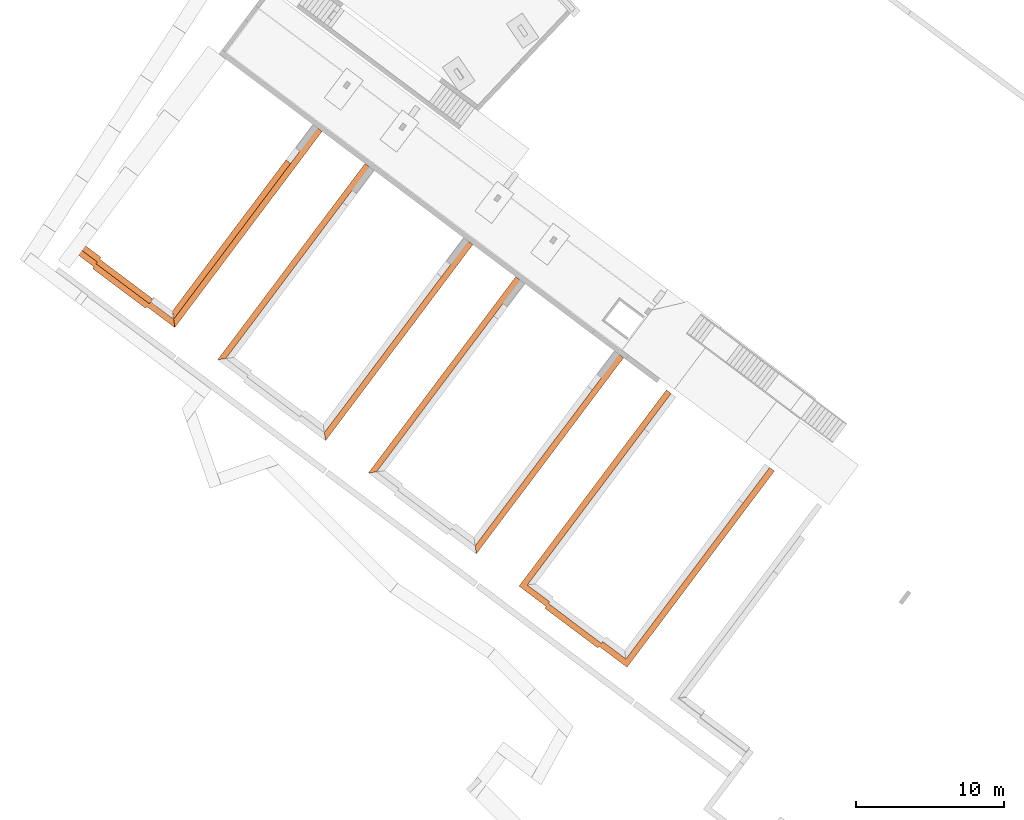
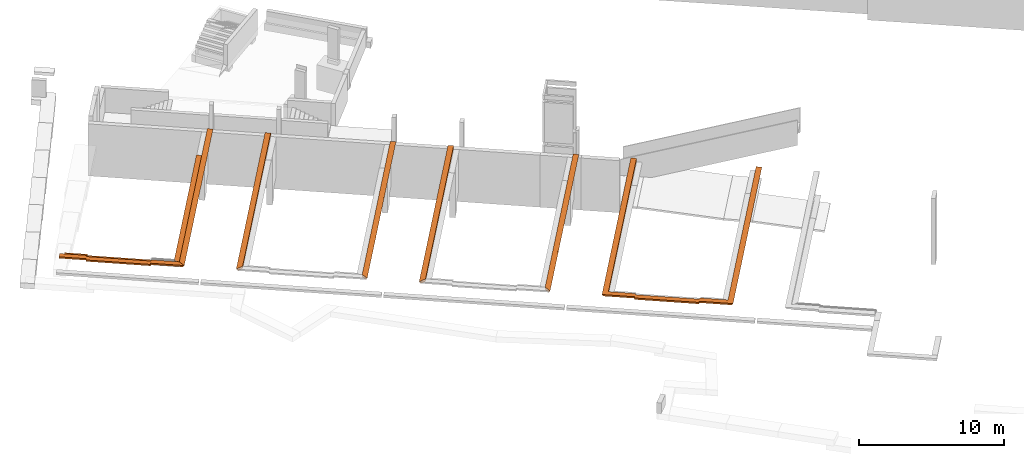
# One storey, part 10 of 11: 6 proxies.
"""IFC2X3 building model written with IfcOpenShell, lengths in metres."""

from ifc_helpers import new_model, entity, si_unit, converted_unit, derived_unit, direction, frame, origin, place, context, subcontext, project, spatial, faceted_brep, type_object, element, save


model = new_model("IFC2X3")

# Units and contexts
model_context = context("Model", 3, precision=1e-05, world=origin(), true_north=direction((6.123031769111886e-17, 1.0)))
body_context = subcontext(model_context, "Body", "Model", "MODEL_VIEW")
ifc_project = project(units=[si_unit("LENGTHUNIT", "METRE"), si_unit("AREAUNIT", "SQUARE_METRE"), si_unit("VOLUMEUNIT", "CUBIC_METRE"), converted_unit("PLANEANGLEUNIT", "DEGREE", entity("IfcRatioMeasure", 0.017453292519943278), si_unit("PLANEANGLEUNIT", "RADIAN"), dimensions=[0, 0, 0, 0, 0, 0, 0]), si_unit("MASSUNIT", "GRAM", prefix="KILO"), derived_unit("MASSDENSITYUNIT", [(si_unit("MASSUNIT", "GRAM", prefix="KILO"), 1), (si_unit("LENGTHUNIT", "METRE"), -3)]), derived_unit("IONCONCENTRATIONUNIT", [(si_unit("MASSUNIT", "GRAM", prefix="KILO"), 1), (si_unit("LENGTHUNIT", "METRE"), -3)]), derived_unit("MOMENTOFINERTIAUNIT", [(si_unit("LENGTHUNIT", "METRE"), 4)]), si_unit("TIMEUNIT", "SECOND"), si_unit("FREQUENCYUNIT", "HERTZ"), si_unit("THERMODYNAMICTEMPERATUREUNIT", "DEGREE_CELSIUS"), derived_unit("THERMALTRANSMITTANCEUNIT", [(si_unit("MASSUNIT", "GRAM", prefix="KILO"), 1), (si_unit("THERMODYNAMICTEMPERATUREUNIT", "KELVIN"), -1), (si_unit("TIMEUNIT", "SECOND"), -3)]), derived_unit("THERMALCONDUCTANCEUNIT", [(si_unit("MASSUNIT", "GRAM", prefix="KILO"), 1), (si_unit("THERMODYNAMICTEMPERATUREUNIT", "KELVIN"), -1), (si_unit("TIMEUNIT", "SECOND"), -3), (si_unit("LENGTHUNIT", "METRE"), 1)]), derived_unit("VOLUMETRICFLOWRATEUNIT", [(si_unit("LENGTHUNIT", "METRE"), 3), (si_unit("TIMEUNIT", "SECOND"), -1)]), derived_unit("MASSFLOWRATEUNIT", [(si_unit("MASSUNIT", "GRAM", prefix="KILO"), 1), (si_unit("TIMEUNIT", "SECOND"), -1)]), derived_unit("ROTATIONALFREQUENCYUNIT", [(si_unit("TIMEUNIT", "SECOND"), -1)]), si_unit("ELECTRICCURRENTUNIT", "AMPERE"), si_unit("ELECTRICVOLTAGEUNIT", "VOLT"), si_unit("POWERUNIT", "WATT"), si_unit("FORCEUNIT", "NEWTON", prefix="KILO"), si_unit("ILLUMINANCEUNIT", "LUX"), si_unit("LUMINOUSFLUXUNIT", "LUMEN"), si_unit("LUMINOUSINTENSITYUNIT", "CANDELA"), derived_unit("USERDEFINED", [(si_unit("MASSUNIT", "GRAM", prefix="KILO"), -1), (si_unit("LENGTHUNIT", "METRE"), -2), (si_unit("TIMEUNIT", "SECOND"), 3), (si_unit("LUMINOUSFLUXUNIT", "LUMEN"), 1)]), derived_unit("USERDEFINED", [(si_unit("MASSUNIT", "GRAM", prefix="KILO"), 1), (si_unit("TIMEUNIT", "SECOND"), -3), (si_unit("LENGTHUNIT", "METRE"), 3), (si_unit("ELECTRICCURRENTUNIT", "AMPERE"), -2)]), derived_unit("SOUNDPOWERUNIT", [(si_unit("MASSUNIT", "GRAM", prefix="KILO"), 1), (si_unit("TIMEUNIT", "SECOND"), -3), (si_unit("LENGTHUNIT", "METRE"), 2)]), derived_unit("SOUNDPRESSUREUNIT", [(si_unit("MASSUNIT", "GRAM", prefix="KILO"), 1), (si_unit("LENGTHUNIT", "METRE"), -1), (si_unit("TIMEUNIT", "SECOND"), -2)]), derived_unit("LINEARVELOCITYUNIT", [(si_unit("LENGTHUNIT", "METRE"), 1), (si_unit("TIMEUNIT", "SECOND"), -1)]), si_unit("PRESSUREUNIT", "PASCAL"), derived_unit("USERDEFINED", [(si_unit("MASSUNIT", "GRAM", prefix="KILO"), 1), (si_unit("LENGTHUNIT", "METRE"), -2), (si_unit("TIMEUNIT", "SECOND"), -2)]), derived_unit("LINEARFORCEUNIT", [(si_unit("MASSUNIT", "GRAM", prefix="KILO"), 1), (si_unit("TIMEUNIT", "SECOND"), -2)]), derived_unit("PLANARFORCEUNIT", [(si_unit("MASSUNIT", "GRAM", prefix="KILO"), 1), (si_unit("LENGTHUNIT", "METRE"), -1), (si_unit("TIMEUNIT", "SECOND"), -2)]), derived_unit("SPECIFICHEATCAPACITYUNIT", [(si_unit("THERMODYNAMICTEMPERATUREUNIT", "KELVIN"), -1), (si_unit("LENGTHUNIT", "METRE"), 2), (si_unit("TIMEUNIT", "SECOND"), -2)]), derived_unit("HEATINGVALUEUNIT", [(si_unit("LENGTHUNIT", "METRE"), 2), (si_unit("TIMEUNIT", "SECOND"), -2)]), derived_unit("VAPORPERMEABILITYUNIT", [(si_unit("LENGTHUNIT", "METRE"), -1), (si_unit("TIMEUNIT", "SECOND"), 1)]), derived_unit("DYNAMICVISCOSITYUNIT", [(si_unit("MASSUNIT", "GRAM", prefix="KILO"), 1), (si_unit("TIMEUNIT", "SECOND"), -1), (si_unit("LENGTHUNIT", "METRE"), -1)]), derived_unit("THERMALEXPANSIONCOEFFICIENTUNIT", [(si_unit("THERMODYNAMICTEMPERATUREUNIT", "KELVIN"), -1)]), derived_unit("MODULUSOFELASTICITYUNIT", [(si_unit("MASSUNIT", "GRAM", prefix="KILO"), 1), (si_unit("LENGTHUNIT", "METRE"), -1), (si_unit("TIMEUNIT", "SECOND"), -2)]), derived_unit("ISOTHERMALMOISTURECAPACITYUNIT", [(si_unit("LENGTHUNIT", "METRE"), 3), (si_unit("MASSUNIT", "GRAM", prefix="KILO"), -1)]), derived_unit("MOISTUREDIFFUSIVITYUNIT", [(si_unit("TIMEUNIT", "SECOND"), -1), (si_unit("LENGTHUNIT", "METRE"), 2)])], contexts=[model_context])

# Site, building, storey
site_placement = place(None, origin())
site = spatial("IfcSite", under=ifc_project, at=site_placement, Name="Default", CompositionType="ELEMENT")
building_placement = place(site_placement, frame((0.0, 0.0, 235.0), z_axis=(0.0, 0.0, 1.0), x_axis=(-0.7996477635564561, 0.6004693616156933, 0.0)))
building = spatial("IfcBuilding", under=site, at=building_placement, CompositionType="ELEMENT")
storey_placement = place(building_placement, frame((0.0, 0.0, -4.459999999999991)))
storey = spatial("IfcBuildingStorey", under=building, at=storey_placement, Name="PS1- Vestuari", CompositionType="ELEMENT", Elevation=-4.459999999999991)

# Proxies
building_element_proxy_type = type_object("IfcBuildingElementProxyType", Name="Borde de losa:STR- Formigó- Vora solera 15 cm- 35x30 cm", PredefinedType="NOTDEFINED")
proxy_1_placement = place(storey_placement, frame((66.44514768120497, -33.415191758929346, 3.859999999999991)))
element("IfcBuildingElementProxy", 1, at=proxy_1_placement, inside=storey, type_object=building_element_proxy_type, Name="Borde de losa:STR- Formigó- Vora solera 15 cm- 35x30 cm", ObjectType="Borde de losa:STR- Formigó- Vora solera 15 cm- 35x30 cm", context=body_context, shape_type="Brep", body=[
    faceted_brep([(0.0, 13.129999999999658, 0.0), (0.0, 13.129999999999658, 0.2), (0.3999999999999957, 12.729999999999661, 0.2000000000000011), (0.3000000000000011, 12.829999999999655, 0.0), (0.0, 0.0, 0.0), (0.3000000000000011, 0.0, 0.0), (0.3999999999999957, 0.0, 0.2000000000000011), (0.0, 0.0, 0.2)], [[[0, 1, 2, 3]], [[4, 5, 6, 7]], [[1, 0, 4, 7]], [[2, 1, 7, 6]], [[3, 2, 6, 5]], [[0, 3, 5, 4]]]),
    faceted_brep([(6.420000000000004, 13.274999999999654, 0.0), (6.420000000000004, 13.274999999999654, 0.2), (6.420000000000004, 13.129999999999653, 0.20000000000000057), (6.420000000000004, 12.874999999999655, 0.2000000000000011), (6.420000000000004, 12.974999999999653, 0.0), (1.9549999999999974, 13.274999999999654, 0.0), (1.9549999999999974, 13.129999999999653, 0.0), (1.9549999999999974, 12.974999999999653, 0.0), (1.9549999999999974, 12.874999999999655, 0.2000000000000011), (1.9549999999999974, 13.129999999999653, 0.20000000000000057), (1.9549999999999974, 13.274999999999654, 0.2)], [[[0, 1, 2, 3, 4]], [[5, 6, 7, 8, 9, 10]], [[1, 0, 5, 10]], [[3, 2, 1, 10, 9, 8]], [[4, 3, 8, 7]], [[0, 4, 7, 6, 5]]]),
    faceted_brep([(8.0, 13.129999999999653, 0.0), (8.0, 13.129999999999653, 0.2), (8.0, 12.729999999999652, 0.2000000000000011), (8.0, 12.829999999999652, 0.0), (6.420000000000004, 13.129999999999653, 0.0), (6.420000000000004, 12.829999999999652, 0.0), (6.420000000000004, 12.729999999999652, 0.2000000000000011), (6.420000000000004, 13.129999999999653, 0.2)], [[[0, 1, 2, 3]], [[4, 5, 6, 7]], [[1, 0, 4, 7]], [[2, 1, 7, 6]], [[3, 2, 6, 5]], [[0, 3, 5, 4]]]),
])
proxy_2_placement = place(storey_placement, frame((66.05130152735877, -20.285191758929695, 4.039999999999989)))
element("IfcBuildingElementProxy", 2, at=proxy_2_placement, inside=storey, type_object=building_element_proxy_type, Name="Borde de losa:STR- Formigó- Vora solera 15 cm- 35x30 cm", ObjectType="Borde de losa:STR- Formigó- Vora solera 15 cm- 35x30 cm", context=body_context, shape_type="Brep", body=[
    faceted_brep([(0.3938461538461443, 0.0, 0.0), (0.3938461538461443, 0.0, 0.2), (0.0, 0.3938461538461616, 0.18769230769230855), (0.09384615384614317, 0.30000000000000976, 0.0), (2.3488461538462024, 0.0, 0.20000000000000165), (2.3488461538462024, 0.0, 0.0), (2.3488461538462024, 0.30000000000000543, 0.0), (2.3488461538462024, 0.39700000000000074, 0.19400000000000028), (2.3488461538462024, 0.145000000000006, 0.20000000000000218), (0.3938461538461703, 0.14500000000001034, 0.2000000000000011), (0.2018461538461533, 0.3970000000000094, 0.19400000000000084)], [[[0, 1, 2, 3]], [[4, 5, 6, 7, 8]], [[1, 0, 5, 4]], [[1, 4, 8, 9]], [[6, 3, 2, 10, 7]], [[0, 3, 6, 5]], [[9, 10, 2, 1]], [[10, 9, 8, 7]]]),
    faceted_brep([(2.3488461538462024, 0.145000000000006, 0.0), (2.3488461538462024, 0.14500000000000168, 0.20000000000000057), (2.3488461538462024, 0.5402941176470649, 0.19058823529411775), (2.3488461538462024, 0.4450000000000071, 0.0), (6.813846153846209, 0.14499999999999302, 0.2000000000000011), (6.813846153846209, 0.14499999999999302, 0.0), (6.813846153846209, 0.4449999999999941, 0.0), (6.813846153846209, 0.5402941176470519, 0.19058823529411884)], [[[0, 1, 2, 3]], [[4, 5, 6, 7]], [[1, 0, 5, 4]], [[6, 3, 2, 7]], [[0, 3, 6, 5]], [[2, 1, 4, 7]]]),
    faceted_brep([(6.813846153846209, 0.0, 0.0), (6.813846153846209, 0.0, 0.20000000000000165), (6.813846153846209, 0.1449999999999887, 0.2000000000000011), (6.813846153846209, 0.39700000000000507, 0.19400000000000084), (6.813846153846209, 0.30000000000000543, 0.0), (8.693846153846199, 0.0, 0.20000000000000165), (8.693846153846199, 0.0, 0.0), (8.693846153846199, 0.3000000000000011, 0.0), (8.693846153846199, 0.39699999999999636, 0.19400000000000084), (8.693846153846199, 0.14499999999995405, 0.20000000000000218)], [[[0, 1, 2, 3, 4]], [[5, 6, 7, 8, 9]], [[1, 0, 6, 5]], [[1, 5, 9, 2]], [[7, 4, 3, 8]], [[0, 4, 7, 6]], [[3, 2, 9, 8]]]),
])
proxy_3_placement = place(storey_placement, frame((40.64355240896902, -36.415191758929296, 4.03999999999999)))
element("IfcBuildingElementProxy", 3, at=proxy_3_placement, inside=storey, type_object=building_element_proxy_type, Name="Borde de losa:STR- Formigó- Vora solera 15 cm- 35x30 cm", ObjectType="Borde de losa:STR- Formigó- Vora solera 15 cm- 35x30 cm", context=body_context, shape_type="Brep", body=[
    faceted_brep([(0.046026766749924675, 6.5752955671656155, 0.2000000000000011), (0.05750166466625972, 6.62201978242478, 0.2000000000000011), (0.06135970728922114, 6.66997748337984, 0.2000000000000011), (0.05750166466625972, 6.717935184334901, 0.2000000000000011), (0.046026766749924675, 6.7646593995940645, 0.2000000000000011), (0.027230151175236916, 6.808948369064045, 0.2000000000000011), (0.001595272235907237, 6.849662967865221, 0.2000000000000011), (0.001595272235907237, 6.49029199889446, 0.2000000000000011), (0.027230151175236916, 6.531006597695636, 0.2000000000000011), (0.04602975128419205, 11.575292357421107, 0.2000000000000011), (0.057505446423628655, 11.62201811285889, 0.2000000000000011), (0.06136375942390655, 11.66997748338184, 0.2000000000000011), (0.057505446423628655, 11.717936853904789, 0.2000000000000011), (0.04602975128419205, 11.764662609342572, 0.2000000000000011), (0.027231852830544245, 11.80895286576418, 0.2000000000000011), (0.001595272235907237, 11.849668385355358, 0.2000000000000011), (0.001595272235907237, 11.490286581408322, 0.2000000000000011), (0.027231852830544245, 11.5310021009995, 0.2000000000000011), (0.04602378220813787, 1.57529877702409, 0.2000000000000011), (0.057497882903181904, 1.6220214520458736, 0.2000000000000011), (0.061355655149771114, 1.669977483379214, 0.2000000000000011), (0.057497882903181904, 1.7179335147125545, 0.2000000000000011), (0.04602378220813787, 1.764656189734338, 0.2000000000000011), (0.02722844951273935, 1.8089438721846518, 0.2000000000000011), (0.001595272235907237, 1.849657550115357, 0.2000000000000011), (0.001595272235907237, 1.490297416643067, 0.2000000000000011), (0.02722844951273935, 1.5310110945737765, 0.2000000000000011), (0.4015952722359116, 0.0, 0.2), (0.007749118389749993, 0.0, 0.18769230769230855), (0.10159527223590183, 0.0, 0.0), (0.4015952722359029, 0.0, 0.0), (0.4015952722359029, 16.129999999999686, 0.2), (0.4015952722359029, 16.129999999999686, 0.0), (0.10159527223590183, 16.42999999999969, 0.0), (0.007749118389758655, 16.523846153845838, 0.18769230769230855), (0.004709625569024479, 1.4945384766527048, 0.19377129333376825), (0.004709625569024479, 1.8454164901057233, 0.19377129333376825), (0.007749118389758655, 1.8411214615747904, 0.18769230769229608), (0.007749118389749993, 6.498827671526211, 0.18769230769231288), (0.004709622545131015, 6.494532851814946, 0.1937712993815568), (0.004709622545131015, 6.845422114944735, 0.1937712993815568), (0.007749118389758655, 6.84112729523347, 0.18769230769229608), (0.007749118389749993, 11.498821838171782, 0.18769230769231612), (0.004709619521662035, 11.494527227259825, 0.19377130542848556), (0.004709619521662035, 11.845427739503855, 0.19377130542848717), (0.007749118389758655, 11.841133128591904, 0.18769230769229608), (0.007749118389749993, 1.498833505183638, 0.18769230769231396), (0.030797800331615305, 11.801906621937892, 0.18841257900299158), (0.04764326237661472, 11.759666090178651, 0.18893899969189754), (0.057907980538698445, 11.715381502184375, 0.18925977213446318), (0.06136375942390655, 11.66997748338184, 0.1893677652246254), (0.057907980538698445, 11.624573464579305, 0.18925977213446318), (0.04764326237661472, 11.580288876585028, 0.18893899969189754), (0.030797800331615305, 11.538048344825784, 0.18841257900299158), (0.030796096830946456, 6.801901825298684, 0.18841252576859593), (0.04764027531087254, 6.759662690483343, 0.18893890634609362), (0.05790419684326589, 6.715379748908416, 0.18925965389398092), (0.06135970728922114, 6.66997748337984, 0.18936763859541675), (0.05790419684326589, 6.624575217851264, 0.18925965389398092), (0.047640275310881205, 6.580292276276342, 0.18893890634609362), (0.030796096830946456, 6.538053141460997, 0.18841252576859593), (0.03079439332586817, 1.8018970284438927, 0.18841247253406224), (0.04763728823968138, 1.7596592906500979, 0.18893881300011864), (0.057900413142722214, 1.7153779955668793, 0.18925953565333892), (0.061355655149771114, 1.669977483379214, 0.18936751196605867), (0.057900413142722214, 1.624576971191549, 0.18925953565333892), (0.04763728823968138, 1.5802956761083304, 0.18893881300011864), (0.03079439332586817, 1.5380579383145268, 0.18841247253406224)], [[[0, 1, 2, 3, 4, 5, 6, 7, 8]], [[9, 10, 11, 12, 13, 14, 15, 16, 17]], [[18, 19, 20, 21, 22, 23, 24, 25, 26]], [[27, 28, 29, 30]], [[31, 32, 33, 34]], [[27, 30, 32, 31]], [[35, 25, 24, 36, 37, 38, 39, 7, 6, 40, 41, 42, 43, 16, 15, 44, 45, 34, 33, 29, 28, 46]], [[30, 29, 33, 32]], [[27, 31, 34, 45, 47, 48, 49, 50, 51, 52, 53, 42, 41, 54, 55, 56, 57, 58, 59, 60, 38, 37, 61, 62, 63, 64, 65, 66, 67, 46, 28]], [[46, 67, 35]], [[25, 35, 26]], [[26, 35, 67]], [[67, 18, 26]], [[65, 64, 20]], [[66, 65, 19]], [[19, 18, 66]], [[20, 19, 65]], [[66, 18, 67]], [[63, 62, 21]], [[64, 63, 20]], [[20, 63, 21]], [[62, 22, 21]], [[61, 37, 36]], [[61, 36, 23]], [[23, 22, 61]], [[24, 23, 36]], [[61, 22, 62]], [[38, 60, 39]], [[7, 39, 8]], [[8, 39, 60]], [[60, 0, 8]], [[58, 57, 2]], [[59, 58, 1]], [[1, 0, 59]], [[2, 1, 58]], [[59, 0, 60]], [[56, 55, 3]], [[57, 56, 2]], [[2, 56, 3]], [[55, 4, 3]], [[54, 41, 40]], [[54, 40, 5]], [[5, 4, 54]], [[6, 5, 40]], [[54, 4, 55]], [[42, 53, 43]], [[16, 43, 17]], [[17, 43, 53]], [[53, 9, 17]], [[51, 50, 11]], [[52, 51, 10]], [[10, 9, 52]], [[11, 10, 51]], [[52, 9, 53]], [[49, 48, 12]], [[50, 49, 11]], [[11, 49, 12]], [[48, 13, 12]], [[47, 45, 44]], [[47, 44, 14]], [[14, 13, 47]], [[15, 14, 44]], [[47, 13, 48]]]),
    faceted_brep([(8.701595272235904, 16.129999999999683, 0.0), (8.701595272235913, 16.129999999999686, 0.20000000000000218), (9.097856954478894, 16.526261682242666, 0.19252336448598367), (9.001595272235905, 16.429999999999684, 0.0), (8.701595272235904, 0.0, 0.20000000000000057), (8.701595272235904, 0.0, 0.0), (9.001595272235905, 0.0, 0.0), (9.097856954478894, 0.0, 0.1925233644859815)], [[[0, 1, 2, 3]], [[4, 5, 6, 7]], [[1, 0, 5, 4]], [[6, 3, 2, 7]], [[0, 3, 6, 5]], [[2, 1, 4, 7]]]),
])
proxy_4_placement = place(storey_placement, frame((53.343552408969, -36.415191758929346, 4.03999999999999)))
element("IfcBuildingElementProxy", 4, at=proxy_4_placement, inside=storey, type_object=building_element_proxy_type, Name="Borde de losa:STR- Formigó- Vora solera 15 cm- 35x30 cm", ObjectType="Borde de losa:STR- Formigó- Vora solera 15 cm- 35x30 cm", context=body_context, shape_type="Brep", body=[
    faceted_brep([(0.0015952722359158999, 11.490276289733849, 0.2000000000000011), (0.02723185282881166, 11.530991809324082, 0.2000000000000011), (0.04602975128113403, 11.575282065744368, 0.2000000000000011), (0.05750544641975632, 11.622007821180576, 0.2000000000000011), (0.061363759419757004, 11.66996719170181, 0.2000000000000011), (0.05750544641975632, 11.717926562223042, 0.2000000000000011), (0.04602975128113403, 11.76465231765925, 0.2000000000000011), (0.02723185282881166, 11.808942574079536, 0.2000000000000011), (0.0015952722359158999, 11.84965809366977, 0.2000000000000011), (0.0015952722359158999, 6.4902817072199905, 0.2000000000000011), (0.02723015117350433, 6.5309963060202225, 0.2000000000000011), (0.046026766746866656, 6.5752852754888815, 0.2000000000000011), (0.05750166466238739, 6.622009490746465, 0.2000000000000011), (0.06135970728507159, 6.66996719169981, 0.2000000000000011), (0.05750166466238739, 6.717924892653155, 0.2000000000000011), (0.046026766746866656, 6.7646491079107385, 0.2000000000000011), (0.02723015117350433, 6.8089380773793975, 0.2000000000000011), (0.0015952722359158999, 6.8496526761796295, 0.2000000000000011), (0.046023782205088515, 1.5752884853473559, 0.2000000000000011), (0.05749788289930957, 1.622011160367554, 0.2000000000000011), (0.061355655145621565, 1.6699671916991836, 0.2000000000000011), (0.05749788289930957, 1.7179232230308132, 0.2000000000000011), (0.046023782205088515, 1.7646458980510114, 0.2000000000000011), (0.027228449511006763, 1.8089335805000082, 0.2000000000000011), (0.0015952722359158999, 1.8496472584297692, 0.2000000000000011), (0.0015952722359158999, 1.490287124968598, 0.2000000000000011), (0.027228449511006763, 1.531000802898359, 0.2000000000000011), (0.4015952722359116, 0.0, 0.2), (0.007749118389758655, 0.0, 0.18769230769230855), (0.1015952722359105, 0.0, 0.0), (0.4015952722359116, 0.0, 0.0), (0.4015952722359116, 16.129999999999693, 0.2), (0.4015952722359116, 16.129999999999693, 0.0), (0.1015952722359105, 16.429999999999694, 0.0), (0.007749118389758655, 16.52384615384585, 0.18769230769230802), (0.004709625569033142, 1.494528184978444, 0.19377129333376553), (0.004709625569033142, 1.8454061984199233, 0.19377129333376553), (0.007749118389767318, 1.841111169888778, 0.1876923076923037), (0.007749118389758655, 6.4988173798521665, 0.18769230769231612), (0.004709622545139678, 6.494522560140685, 0.193771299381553), (0.004709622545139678, 6.845411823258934, 0.193771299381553), (0.007749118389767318, 6.841117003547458, 0.1876923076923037), (0.007749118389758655, 11.49881154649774, 0.18769230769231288), (0.00470961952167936, 11.494516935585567, 0.19377130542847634), (0.00470961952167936, 11.845417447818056, 0.19377130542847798), (0.007749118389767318, 11.841122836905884, 0.1876923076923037), (0.007749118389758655, 1.4988232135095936, 0.1876923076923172), (0.030797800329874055, 11.801896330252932, 0.1884125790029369), (0.04764326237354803, 11.75965579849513, 0.1889389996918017), (0.05790798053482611, 11.715371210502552, 0.18925977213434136), (0.061363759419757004, 11.66996719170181, 0.18936776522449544), (0.05790798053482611, 11.624563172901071, 0.18925977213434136), (0.04764326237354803, 11.580278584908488, 0.1889389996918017), (0.030797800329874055, 11.538038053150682, 0.1884125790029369), (0.030796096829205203, 6.801891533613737, 0.1884125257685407), (0.04764027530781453, 6.759652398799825, 0.18893890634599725), (0.05790419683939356, 6.715369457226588, 0.18925965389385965), (0.06135970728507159, 6.66996719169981, 0.1893676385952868), (0.05790419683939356, 6.624564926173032, 0.18925965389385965), (0.04764027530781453, 6.580281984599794, 0.1889389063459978), (0.030796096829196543, 6.538042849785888, 0.1884125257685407), (0.03079439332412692, 1.801886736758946, 0.188412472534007), (0.04763728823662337, 1.7596489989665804, 0.1889388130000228), (0.05790041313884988, 1.7153677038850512, 0.1892595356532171), (0.061355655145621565, 1.6699671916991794, 0.18936751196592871), (0.057900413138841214, 1.6245666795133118, 0.1892595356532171), (0.04763728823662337, 1.5802853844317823, 0.1889388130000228), (0.03079439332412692, 1.5380476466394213, 0.18841247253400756)], [[[0, 1, 2, 3, 4, 5, 6, 7, 8]], [[9, 10, 11, 12, 13, 14, 15, 16, 17]], [[18, 19, 20, 21, 22, 23, 24, 25, 26]], [[27, 28, 29, 30]], [[31, 32, 33, 34]], [[27, 30, 32, 31]], [[35, 25, 24, 36, 37, 38, 39, 9, 17, 40, 41, 42, 43, 0, 8, 44, 45, 34, 33, 29, 28, 46]], [[30, 29, 33, 32]], [[27, 31, 34, 45, 47, 48, 49, 50, 51, 52, 53, 42, 41, 54, 55, 56, 57, 58, 59, 60, 38, 37, 61, 62, 63, 64, 65, 66, 67, 46, 28]], [[42, 53, 43]], [[0, 43, 1]], [[1, 43, 53]], [[53, 2, 1]], [[51, 50, 4]], [[52, 51, 3]], [[3, 2, 52]], [[4, 3, 51]], [[52, 2, 53]], [[49, 48, 5]], [[50, 49, 4]], [[4, 49, 5]], [[48, 6, 5]], [[47, 45, 44]], [[47, 44, 7]], [[7, 6, 47]], [[8, 7, 44]], [[47, 6, 48]], [[38, 60, 39]], [[9, 39, 10]], [[10, 39, 60]], [[60, 11, 10]], [[58, 57, 13]], [[59, 58, 12]], [[12, 11, 59]], [[13, 12, 58]], [[59, 11, 60]], [[56, 55, 14]], [[57, 56, 13]], [[13, 56, 14]], [[55, 15, 14]], [[54, 41, 40]], [[54, 40, 16]], [[16, 15, 54]], [[17, 16, 40]], [[54, 15, 55]], [[46, 67, 35]], [[25, 35, 26]], [[26, 35, 67]], [[67, 18, 26]], [[65, 64, 20]], [[66, 65, 19]], [[19, 18, 66]], [[20, 19, 65]], [[66, 18, 67]], [[63, 62, 21]], [[64, 63, 20]], [[20, 63, 21]], [[62, 22, 21]], [[61, 37, 36]], [[61, 36, 23]], [[23, 22, 61]], [[24, 23, 36]], [[61, 22, 62]]]),
    faceted_brep([(8.701595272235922, 16.129999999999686, 0.0), (8.701595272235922, 16.12999999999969, 0.20000000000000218), (9.09785695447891, 16.52626168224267, 0.19252336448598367), (9.001595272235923, 16.429999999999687, 0.0), (8.701595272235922, 0.0, 0.20000000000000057), (8.701595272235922, 0.0, 0.0), (9.001595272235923, 0.0, 0.0), (9.09785695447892, 0.0, 0.1925233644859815)], [[[0, 1, 2, 3]], [[4, 5, 6, 7]], [[1, 0, 5, 4]], [[6, 3, 2, 7]], [[0, 3, 6, 5]], [[2, 1, 4, 7]]]),
])
proxy_5_placement = place(storey_placement, frame((66.043552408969, -36.415191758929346, 4.039999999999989)))
element("IfcBuildingElementProxy", 5, at=proxy_5_placement, inside=storey, type_object=building_element_proxy_type, Name="Borde de losa:STR- Formigó- Vora solera 15 cm- 35x30 cm", ObjectType="Borde de losa:STR- Formigó- Vora solera 15 cm- 35x30 cm", context=body_context, shape_type="Brep", body=[
    faceted_brep([(0.0015952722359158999, 6.490271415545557, 0.20000000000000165), (0.027230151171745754, 6.53098601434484, 0.20000000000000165), (0.04602676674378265, 6.575274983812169, 0.20000000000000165), (0.0575016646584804, 6.621999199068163, 0.20000000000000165), (0.061359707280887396, 6.669956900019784, 0.20000000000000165), (0.0575016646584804, 6.717914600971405, 0.20000000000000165), (0.04602676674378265, 6.764638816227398, 0.20000000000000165), (0.027230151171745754, 6.808927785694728, 0.20000000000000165), (0.0015952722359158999, 6.849642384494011, 0.20000000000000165), (0.0015952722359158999, 11.490265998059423, 0.20000000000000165), (0.027231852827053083, 11.530981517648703, 0.20000000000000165), (0.04602975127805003, 11.575271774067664, 0.20000000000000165), (0.05750544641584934, 11.621997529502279, 0.2000000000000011), (0.06136375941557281, 11.669956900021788, 0.2000000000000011), (0.05750544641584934, 11.717916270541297, 0.2000000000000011), (0.04602975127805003, 11.76464202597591, 0.20000000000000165), (0.027231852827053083, 11.808932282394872, 0.20000000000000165), (0.0015952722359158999, 11.849647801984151, 0.20000000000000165), (0.0015952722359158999, 1.4902768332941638, 0.20000000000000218), (0.027228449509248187, 1.5309905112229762, 0.20000000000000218), (0.04602378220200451, 1.5752781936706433, 0.20000000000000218), (0.05749788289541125, 1.622000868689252, 0.20000000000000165), (0.06135565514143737, 1.6699569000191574, 0.20000000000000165), (0.05749788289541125, 1.717912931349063, 0.20000000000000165), (0.04602378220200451, 1.7646356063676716, 0.20000000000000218), (0.027228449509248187, 1.8089232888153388, 0.20000000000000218), (0.0015952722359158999, 1.8496369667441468, 0.20000000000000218), (0.4015952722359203, 0.0, 0.20000000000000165), (0.007749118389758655, 0.0, 0.1876923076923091), (0.1015952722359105, 0.0, 0.0), (0.4015952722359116, 0.0, 0.0), (0.4015952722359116, 16.129999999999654, 0.2), (0.4015952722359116, 16.129999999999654, 0.0), (0.1015952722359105, 16.429999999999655, 0.0), (0.007749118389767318, 16.523846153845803, 0.18769230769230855), (0.004709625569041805, 1.4945178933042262, 0.19377129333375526), (0.004709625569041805, 1.8453959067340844, 0.19377129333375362), (0.007749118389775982, 1.8411008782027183, 0.18769230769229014), (0.007749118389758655, 6.498807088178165, 0.18769230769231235), (0.004709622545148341, 6.494512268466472, 0.1937712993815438), (0.004709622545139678, 6.8454015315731, 0.1937712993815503), (0.007749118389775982, 6.841106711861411, 0.18769230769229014), (0.007749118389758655, 11.498801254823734, 0.18769230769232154), (0.00470961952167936, 11.49450664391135, 0.1937713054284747), (0.00470961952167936, 11.84540715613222, 0.19377130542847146), (0.007749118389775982, 11.841112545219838, 0.1876923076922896), (0.007749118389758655, 1.4988129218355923, 0.18769230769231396), (0.03079780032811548, 11.801886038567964, 0.1884125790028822), (0.047643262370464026, 11.7596455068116, 0.18893899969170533), (0.057907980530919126, 11.715360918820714, 0.18925977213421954), (0.06136375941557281, 11.669956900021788, 0.18936776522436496), (0.057907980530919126, 11.624552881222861, 0.18925977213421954), (0.047643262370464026, 11.580268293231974, 0.18893899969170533), (0.03079780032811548, 11.538027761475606, 0.1884125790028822), (0.030796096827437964, 6.8018812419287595, 0.18841252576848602), (0.04764027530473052, 6.759642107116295, 0.1889389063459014), (0.057904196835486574, 6.715359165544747, 0.1892596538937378), (0.061359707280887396, 6.669956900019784, 0.18936763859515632), (0.057904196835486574, 6.6245546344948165, 0.1892596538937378), (0.04764027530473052, 6.580271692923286, 0.1889389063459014), (0.030796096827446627, 6.538032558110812, 0.18841252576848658), (0.030794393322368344, 1.8018764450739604, 0.18841247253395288), (0.04763728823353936, 1.7596387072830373, 0.18893881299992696), (0.057900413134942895, 1.715357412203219, 0.18925953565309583), (0.06135565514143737, 1.6699569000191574, 0.1893675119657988), (0.05790041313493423, 1.6245563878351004, 0.18925953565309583), (0.04763728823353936, 1.5802750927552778, 0.1889388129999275), (0.030794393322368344, 1.5380373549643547, 0.18841247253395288)], [[[0, 1, 2, 3, 4, 5, 6, 7, 8]], [[9, 10, 11, 12, 13, 14, 15, 16, 17]], [[18, 19, 20, 21, 22, 23, 24, 25, 26]], [[27, 28, 29, 30]], [[31, 32, 33, 34]], [[27, 30, 32, 31]], [[35, 18, 26, 36, 37, 38, 39, 0, 8, 40, 41, 42, 43, 9, 17, 44, 45, 34, 33, 29, 28, 46]], [[30, 29, 33, 32]], [[27, 31, 34, 45, 47, 48, 49, 50, 51, 52, 53, 42, 41, 54, 55, 56, 57, 58, 59, 60, 38, 37, 61, 62, 63, 64, 65, 66, 67, 46, 28]], [[46, 67, 35]], [[18, 35, 19]], [[19, 35, 67]], [[67, 20, 19]], [[65, 64, 22]], [[66, 65, 21]], [[21, 20, 66]], [[22, 21, 65]], [[66, 20, 67]], [[63, 62, 23]], [[64, 63, 22]], [[22, 63, 23]], [[62, 24, 23]], [[61, 37, 36]], [[61, 36, 25]], [[25, 24, 61]], [[26, 25, 36]], [[61, 24, 62]], [[38, 60, 39]], [[0, 39, 1]], [[1, 39, 60]], [[60, 2, 1]], [[58, 57, 4]], [[59, 58, 3]], [[3, 2, 59]], [[4, 3, 58]], [[59, 2, 60]], [[56, 55, 5]], [[57, 56, 4]], [[4, 56, 5]], [[55, 6, 5]], [[54, 41, 40]], [[54, 40, 7]], [[7, 6, 54]], [[8, 7, 40]], [[54, 6, 55]], [[42, 53, 43]], [[9, 43, 10]], [[10, 43, 53]], [[53, 11, 10]], [[51, 50, 13]], [[52, 51, 12]], [[12, 11, 52]], [[13, 12, 51]], [[52, 11, 53]], [[49, 48, 14]], [[50, 49, 13]], [[13, 49, 14]], [[48, 15, 14]], [[47, 45, 44]], [[47, 44, 16]], [[16, 15, 47]], [[17, 16, 44]], [[47, 15, 48]]]),
])
proxy_6_placement = place(storey_placement, frame((27.945147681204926, -36.415191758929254, 4.03999999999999)))
element("IfcBuildingElementProxy", 6, at=proxy_6_placement, inside=storey, type_object=building_element_proxy_type, Name="Borde de losa:STR- Formigó- Vora solera 15 cm- 35x30 cm", ObjectType="Borde de losa:STR- Formigó- Vora solera 15 cm- 35x30 cm", context=body_context, shape_type="Brep", body=[
    faceted_brep([(6.820000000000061, 16.129999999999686, 0.0), (6.820000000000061, 16.129999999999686, 0.20000000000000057), (6.820000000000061, 16.274999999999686, 0.20000000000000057), (6.820000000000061, 16.529999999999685, 0.20000000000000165), (6.820000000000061, 16.526999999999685, 0.19400000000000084), (6.820000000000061, 16.429999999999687, 0.0), (8.700000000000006, 16.129999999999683, 0.0), (8.70000000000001, 16.129999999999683, 0.20000000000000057), (9.10000000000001, 16.52999999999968, 0.20000000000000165), (9.096261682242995, 16.52626168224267, 0.1925233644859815), (9.0, 16.429999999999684, 0.0), (8.700000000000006, 0.0, 0.0), (9.0, 0.0, 0.0), (9.096261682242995, 0.0, 0.1925233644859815), (9.100000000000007, 0.0, 0.2000000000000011), (8.700000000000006, 0.0, 0.2)], [[[0, 1, 2, 3, 4, 5]], [[1, 0, 6, 7]], [[3, 2, 1, 7, 8]], [[5, 4, 3, 8, 9, 10]], [[0, 5, 10, 6]], [[11, 12, 13, 14, 15]], [[7, 6, 11, 15]], [[8, 7, 15, 14]], [[10, 9, 8, 14, 13, 12]], [[6, 10, 12, 11]]]),
    faceted_brep([(2.3550000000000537, 16.274999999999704, 0.0), (2.3550000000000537, 16.274999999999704, 0.20000000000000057), (2.3550000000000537, 16.674999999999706, 0.20000000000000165), (2.3550000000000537, 16.670294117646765, 0.1905882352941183), (2.3550000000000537, 16.574999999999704, 0.0), (6.820000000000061, 16.274999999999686, 0.0), (6.820000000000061, 16.57499999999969, 0.0), (6.820000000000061, 16.670294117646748, 0.1905882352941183), (6.820000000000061, 16.674999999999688, 0.20000000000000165), (6.820000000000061, 16.274999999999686, 0.20000000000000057)], [[[0, 1, 2, 3, 4]], [[5, 6, 7, 8, 9]], [[1, 0, 5, 9]], [[2, 1, 9, 8]], [[4, 3, 2, 8, 7, 6]], [[0, 4, 6, 5]]]),
    faceted_brep([(2.3550000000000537, 16.12999999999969, 0.0), (2.3550000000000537, 16.42999999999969, 0.0), (2.3550000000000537, 16.526999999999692, 0.1940000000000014), (2.3550000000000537, 16.52999999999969, 0.20000000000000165), (2.3550000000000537, 16.274999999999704, 0.2000000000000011), (2.3550000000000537, 16.12999999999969, 0.20000000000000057), (0.40000000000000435, 16.129999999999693, 0.20000000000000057), (0.4, 16.129999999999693, 0.0), (0.0, 16.529999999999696, 0.2000000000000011), (0.10000000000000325, 16.429999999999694, 0.0), (0.004651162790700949, 16.525348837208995, 0.19069767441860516), (0.40000000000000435, 0.0, 0.0), (0.40000000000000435, 0.0, 0.2), (0.0, 0.0, 0.2000000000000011), (0.004651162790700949, 0.0, 0.19069767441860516), (0.10000000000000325, 0.0, 0.0), (0.0, 11.856139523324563, 0.2000000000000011), (0.0, 11.483836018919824, 0.2000000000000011), (0.0, 6.85613440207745, 0.2000000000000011), (0.0, 6.483841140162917, 0.2000000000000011), (0.0, 1.8561292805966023, 0.2000000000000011), (0.0, 1.4838462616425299, 0.2000000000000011)], [[[0, 1, 2, 3, 4, 5]], [[6, 7, 0, 5]], [[8, 6, 5, 4, 3]], [[9, 10, 8, 3, 2, 1]], [[7, 9, 1, 0]], [[11, 12, 13, 14, 15]], [[12, 11, 7, 6]], [[13, 12, 6, 8, 16, 17, 18, 19, 20, 21]], [[15, 14, 13, 21, 20, 19, 18, 17, 16, 8, 10, 9]], [[11, 15, 9, 7]]]),
])

save(model, "model.ifc")
